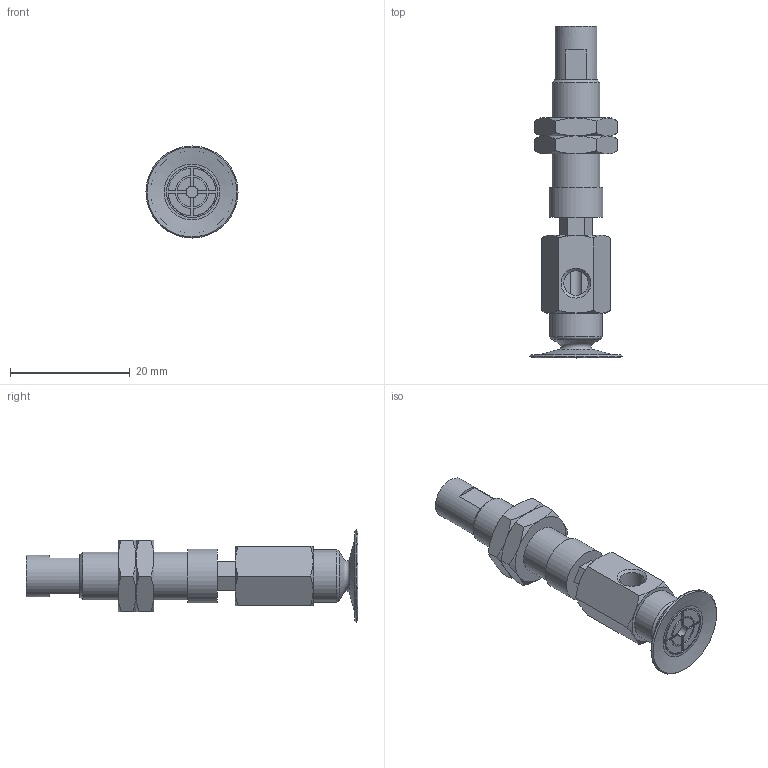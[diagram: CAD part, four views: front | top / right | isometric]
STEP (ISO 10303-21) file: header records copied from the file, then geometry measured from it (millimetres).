
FILE_DESCRIPTION(('STEP AP203'),'1');
FILE_NAME('.stp','2025-03-13T03:08:33',(' '),(' '),'Spatial InterOp 3D',' ',' ');
FILE_SCHEMA(('CONFIG_CONTROL_DESIGN'));
Length unit declared in the file: millimetre
Products named in the file (6): BNABPAYH-15B-3-※; NAPATH-10A-3--M; NAPATH-10A-3--F; Nut-10A-S; CONNECTOR-10A-3-PA; BPAG-15B-※
Assembly tree (6 placements, depth 2):
  BNABPAYH-15B-3-※
    NAPATH-10A-3--M
    NAPATH-10A-3--F
    Nut-10A-S  x2
    CONNECTOR-10A-3-PA
    BPAG-15B-※
Bounding box: 15.4 x 55.5 x 15.4 mm (x, y, z)
Volume: 3406.4 mm3; surface area: 4315.7 mm2
Topology: 6 solids, 6 shells, 181 faces, 411 edges, 251 vertices
Faces by surface type: plane 83, cone 60, cylinder 28, torus 10
Full cylindrical faces by diameter (mm): 2 x2, 4 x2, 4.134 x2, 5 x1, 6 x2, 7 x1, 7.188 x2, 8 x1, 8.5 x1, 8.7 x1, 9 x1
Entity records: 4728 total; most frequent: CARTESIAN_POINT 1118, DIRECTION 684, ORIENTED_EDGE 628, EDGE_CURVE 314, AXIS2_PLACEMENT_3D 274, EDGE_LOOP 214, VERTEX_POINT 212, FACE_OUTER_BOUND 183
